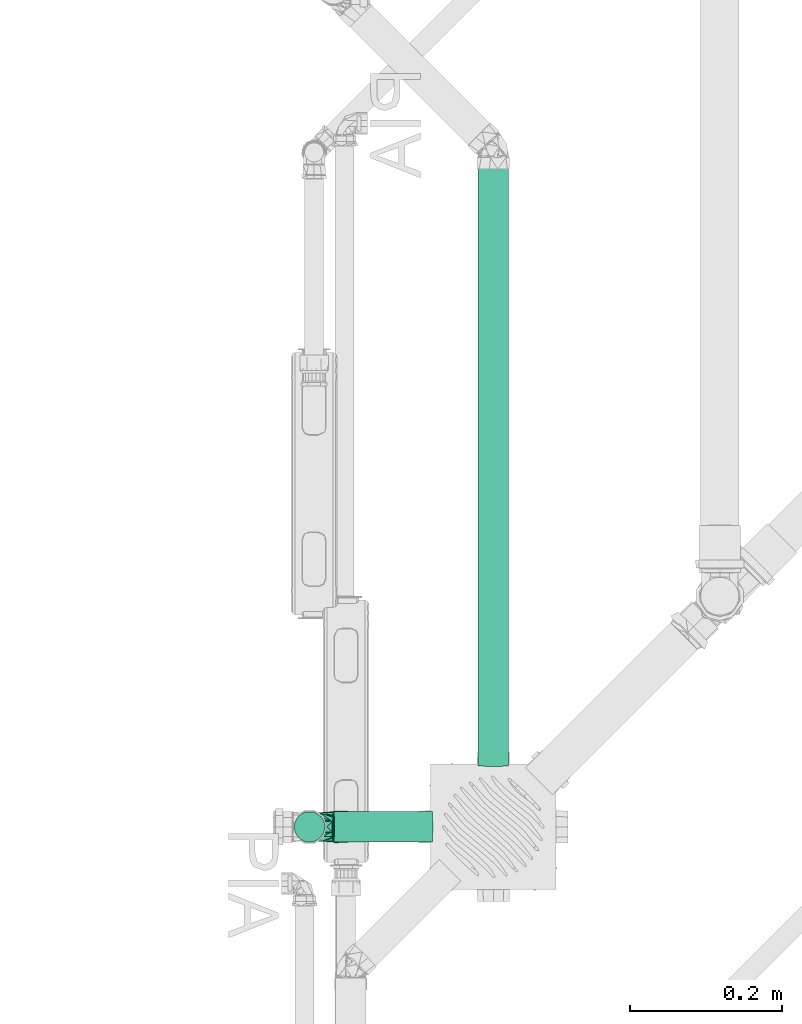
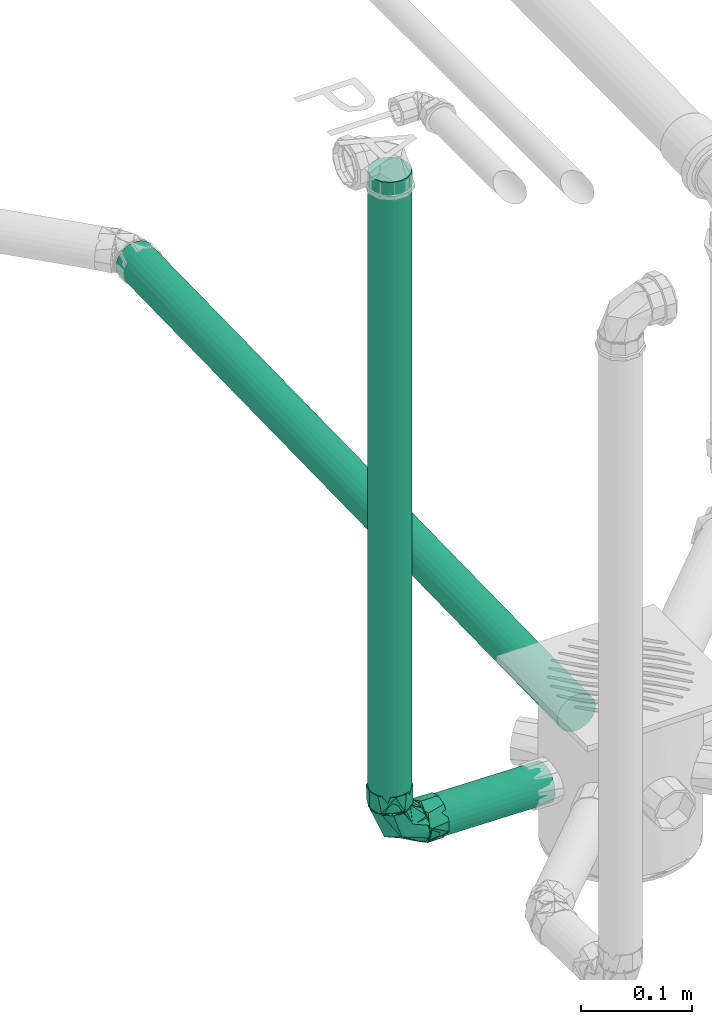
# One storey, part 197 of 589: 3 flow segments, 1 flow fitting.
"""IFC2X3 building model written with IfcOpenShell, lengths in millimetres."""

from ifc_helpers import new_model, entity, si_unit, converted_unit, derived_unit, direction, frame, frame_2d, origin, place, context, subcontext, project, spatial, circle, extrude, faceted_brep, source, transform, mapped, material, type_object, type_shapes, element, save


model = new_model("IFC2X3")

# Units and contexts
model_context = context("Model", 3, precision=0.01, world=origin(), true_north=direction((6.123031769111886e-17, 1.0)))
body_context = subcontext(model_context, "Body", "Model", "MODEL_VIEW")
ifc_project = project(units=[si_unit("LENGTHUNIT", "METRE", prefix="MILLI"), si_unit("AREAUNIT", "SQUARE_METRE"), si_unit("VOLUMEUNIT", "CUBIC_METRE"), converted_unit("PLANEANGLEUNIT", "DEGREE", entity("IfcRatioMeasure", 0.017453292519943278), si_unit("PLANEANGLEUNIT", "RADIAN"), dimensions=[0, 0, 0, 0, 0, 0, 0]), si_unit("MASSUNIT", "GRAM", prefix="KILO"), derived_unit("MASSDENSITYUNIT", [(si_unit("MASSUNIT", "GRAM", prefix="KILO"), 1), (si_unit("LENGTHUNIT", "METRE"), -3)]), derived_unit("IONCONCENTRATIONUNIT", [(si_unit("MASSUNIT", "GRAM", prefix="KILO"), 1), (si_unit("LENGTHUNIT", "METRE"), -3)]), derived_unit("MOMENTOFINERTIAUNIT", [(si_unit("LENGTHUNIT", "METRE"), 4)]), si_unit("TIMEUNIT", "SECOND"), si_unit("FREQUENCYUNIT", "HERTZ"), si_unit("THERMODYNAMICTEMPERATUREUNIT", "DEGREE_CELSIUS"), derived_unit("THERMALTRANSMITTANCEUNIT", [(si_unit("MASSUNIT", "GRAM", prefix="KILO"), 1), (si_unit("THERMODYNAMICTEMPERATUREUNIT", "KELVIN"), -1), (si_unit("TIMEUNIT", "SECOND"), -3)]), derived_unit("THERMALCONDUCTANCEUNIT", [(si_unit("MASSUNIT", "GRAM", prefix="KILO"), 1), (si_unit("THERMODYNAMICTEMPERATUREUNIT", "KELVIN"), -1), (si_unit("TIMEUNIT", "SECOND"), -3), (si_unit("LENGTHUNIT", "METRE"), 1)]), derived_unit("VOLUMETRICFLOWRATEUNIT", [(si_unit("LENGTHUNIT", "METRE"), 3), (si_unit("TIMEUNIT", "SECOND"), -1)]), derived_unit("MASSFLOWRATEUNIT", [(si_unit("MASSUNIT", "GRAM", prefix="KILO"), 1), (si_unit("TIMEUNIT", "SECOND"), -1)]), derived_unit("ROTATIONALFREQUENCYUNIT", [(si_unit("TIMEUNIT", "SECOND"), -1)]), si_unit("ELECTRICCURRENTUNIT", "AMPERE"), si_unit("ELECTRICVOLTAGEUNIT", "VOLT"), si_unit("POWERUNIT", "WATT"), si_unit("FORCEUNIT", "NEWTON", prefix="KILO"), si_unit("ILLUMINANCEUNIT", "LUX"), si_unit("LUMINOUSFLUXUNIT", "LUMEN"), si_unit("LUMINOUSINTENSITYUNIT", "CANDELA"), derived_unit("USERDEFINED", [(si_unit("MASSUNIT", "GRAM", prefix="KILO"), -1), (si_unit("LENGTHUNIT", "METRE"), -2), (si_unit("TIMEUNIT", "SECOND"), 3), (si_unit("LUMINOUSFLUXUNIT", "LUMEN"), 1)]), derived_unit("USERDEFINED", [(si_unit("MASSUNIT", "GRAM", prefix="KILO"), 1), (si_unit("TIMEUNIT", "SECOND"), -3), (si_unit("LENGTHUNIT", "METRE"), 3), (si_unit("ELECTRICCURRENTUNIT", "AMPERE"), -2)]), derived_unit("SOUNDPOWERUNIT", [(si_unit("MASSUNIT", "GRAM", prefix="KILO"), 1), (si_unit("TIMEUNIT", "SECOND"), -3), (si_unit("LENGTHUNIT", "METRE"), 2)]), derived_unit("SOUNDPRESSUREUNIT", [(si_unit("MASSUNIT", "GRAM", prefix="KILO"), 1), (si_unit("LENGTHUNIT", "METRE"), -1), (si_unit("TIMEUNIT", "SECOND"), -2)]), derived_unit("LINEARVELOCITYUNIT", [(si_unit("LENGTHUNIT", "METRE"), 1), (si_unit("TIMEUNIT", "SECOND"), -1)]), si_unit("PRESSUREUNIT", "PASCAL"), derived_unit("USERDEFINED", [(si_unit("MASSUNIT", "GRAM", prefix="KILO"), 1), (si_unit("LENGTHUNIT", "METRE"), -2), (si_unit("TIMEUNIT", "SECOND"), -2)]), derived_unit("LINEARFORCEUNIT", [(si_unit("MASSUNIT", "GRAM", prefix="KILO"), 1), (si_unit("TIMEUNIT", "SECOND"), -2)]), derived_unit("PLANARFORCEUNIT", [(si_unit("MASSUNIT", "GRAM", prefix="KILO"), 1), (si_unit("LENGTHUNIT", "METRE"), -1), (si_unit("TIMEUNIT", "SECOND"), -2)]), derived_unit("SPECIFICHEATCAPACITYUNIT", [(si_unit("THERMODYNAMICTEMPERATUREUNIT", "KELVIN"), -1), (si_unit("LENGTHUNIT", "METRE"), 2), (si_unit("TIMEUNIT", "SECOND"), -2)]), derived_unit("HEATINGVALUEUNIT", [(si_unit("LENGTHUNIT", "METRE"), 2), (si_unit("TIMEUNIT", "SECOND"), -2)]), derived_unit("VAPORPERMEABILITYUNIT", [(si_unit("LENGTHUNIT", "METRE"), -1), (si_unit("TIMEUNIT", "SECOND"), 1)]), derived_unit("DYNAMICVISCOSITYUNIT", [(si_unit("MASSUNIT", "GRAM", prefix="KILO"), 1), (si_unit("TIMEUNIT", "SECOND"), -1), (si_unit("LENGTHUNIT", "METRE"), -1)]), derived_unit("THERMALEXPANSIONCOEFFICIENTUNIT", [(si_unit("THERMODYNAMICTEMPERATUREUNIT", "KELVIN"), -1)]), derived_unit("MODULUSOFELASTICITYUNIT", [(si_unit("MASSUNIT", "GRAM", prefix="KILO"), 1), (si_unit("LENGTHUNIT", "METRE"), -1), (si_unit("TIMEUNIT", "SECOND"), -2)]), derived_unit("ISOTHERMALMOISTURECAPACITYUNIT", [(si_unit("LENGTHUNIT", "METRE"), 3), (si_unit("MASSUNIT", "GRAM", prefix="KILO"), -1)]), derived_unit("MOISTUREDIFFUSIVITYUNIT", [(si_unit("TIMEUNIT", "SECOND"), -1), (si_unit("LENGTHUNIT", "METRE"), 2)])], contexts=[model_context])

# Site, building, storey
site_placement = place(None, origin())
site = spatial("IfcSite", under=ifc_project, at=site_placement, Name="Default", CompositionType="ELEMENT")
building_placement = place(site_placement, origin())
building = spatial("IfcBuilding", under=site, at=building_placement, CompositionType="ELEMENT")
storey_placement = place(building_placement, frame((0.0, 0.0, 100.0)))
storey = spatial("IfcBuildingStorey", under=building, at=storey_placement, Name="TÉRREO", CompositionType="ELEMENT", Elevation=100.0)

# Flow segments
pipe_segment_type = type_object("IfcPipeSegmentType", Name="Tipos de tubos:PVC Esgoto Série Normal", PredefinedType="NOTDEFINED")
flow_segment_1_placement = place(storey_placement, origin())
element("IfcFlowSegment", 1, at=flow_segment_1_placement, inside=storey, type_object=pipe_segment_type, Name="Tipos de tubos:PVC Esgoto Série Normal", ObjectType="Tipos de tubos:PVC Esgoto Série Normal", context=body_context, shape_type="SweptSolid", body=[
    extrude(circle(Radius=20.0, at=frame_2d((0.0, -3.3832831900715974e-14), x_axis=(1.0, 0.0))), frame((7469.28895087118, -475.81133757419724, -254.33802423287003), z_axis=(-0.9998000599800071, 0.0, 0.019996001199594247), x_axis=(0.0, -1.0, 0.0)), (0.0, 0.0, 1.0), 129.24584104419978),
])
flow_segment_2_placement = place(storey_placement, origin())
element("IfcFlowSegment", 2, at=flow_segment_2_placement, inside=storey, type_object=pipe_segment_type, Name="Tipos de tubos:PVC Esgoto Série Normal", ObjectType="Tipos de tubos:PVC Esgoto Série Normal", context=body_context, shape_type="SweptSolid", body=[
    extrude(circle(Radius=20.0, at=frame_2d((0.0, -6.767919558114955e-14), x_axis=(1.0, 0.0))), frame((7307.869391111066, -475.8113375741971, -218.9036336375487)), (0.0, 0.0, 1.0), 697.1036336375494),
])
flow_segment_3_placement = place(storey_placement, origin())
element("IfcFlowSegment", 3, at=flow_segment_3_placement, inside=storey, type_object=pipe_segment_type, Name="Tipos de tubos:PVC Esgoto Série Normal", ObjectType="Tipos de tubos:PVC Esgoto Série Normal", context=body_context, shape_type="SweptSolid", body=[
    extrude(circle(Radius=20.0, at=frame_2d((0.0, -3.383283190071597e-14), x_axis=(1.0, 0.0))), frame((7549.188950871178, -395.9113375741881, -254.33802423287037), z_axis=(0.0, 0.999800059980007, 0.01999600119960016), x_axis=(1.0, 0.0, 0.0)), (0.0, 0.0, 1.0), 798.951614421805),
])

# Flow fitting
ifc_material = material(Name="PVC Branco")
pipe_fitting_type = type_object("IfcPipeFittingType", Name="PVC Esgoto_Curva 90° Curta:a. Série Normal", PredefinedType="NOTDEFINED", material=ifc_material)
shared_shape = source(origin(), body_context, "Body", "Brep", [
    faceted_brep([(17.961036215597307, 31.85321923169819, 10.0), (20.63999240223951, 31.79964010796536, 0.0), (17.961036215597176, 31.853219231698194, -10.0), (5.819337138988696, 32.09605321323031, -19.318516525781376), (-4.531354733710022, 32.30306705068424, -19.31851652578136), (-16.67305381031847, 32.545901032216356, -10.0), (-19.352009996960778, 32.59948015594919, 0.0), (-16.673053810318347, 32.54590103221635, 10.0), (-4.531354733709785, 32.303067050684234, 19.318516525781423), (5.819337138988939, 32.096053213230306, 19.318516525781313), (19.378093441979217, 29.02431814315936, 6.84041311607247), (15.905813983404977, 29.093763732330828, 12.855768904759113), (20.584003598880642, 29.000199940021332, 0.0), (7.427001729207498, 29.263339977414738, 18.793865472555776), (0.5880023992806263, 29.40011996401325, 20.0), (-12.265223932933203, 29.657184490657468, 15.320851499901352), (-18.202100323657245, 29.775922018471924, 6.840381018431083), (-19.407998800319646, 29.800039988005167, 0.0), (-6.251109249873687, 29.536902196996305, 18.79382458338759), (-18.202100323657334, 29.775922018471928, -6.840381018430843), (-14.729853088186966, 29.70647707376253, -12.855716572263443), (-6.25110924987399, 29.53690219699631, -18.79382458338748), (0.588002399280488, 29.40011996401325, -20.0), (13.441163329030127, 29.143056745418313, -15.32090639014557), (19.378093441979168, 29.02431814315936, -6.8404131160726), (7.427001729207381, 29.263339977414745, -18.79386547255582), (-11.35075352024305, -12.626805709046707, 0.0), (-29.405999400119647, -18.793848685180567, 6.8404131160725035), (-29.405999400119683, -19.396924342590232, 3.420206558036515), (-29.405999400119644, -20.0, 0.0), (-29.40599940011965, -15.320874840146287, 12.855768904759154), (-29.405999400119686, -17.057361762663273, 9.848091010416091), (-2.3339581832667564, 2.3811033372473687, 18.02101843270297), (-29.40599940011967, -6.840366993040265, 18.793865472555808), (-29.405999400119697, -11.080620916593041, 15.824817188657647), (-29.405999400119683, 0.0, 20.0), (-29.40599940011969, -3.420183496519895, 19.396932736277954), (-12.878045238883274, 13.138181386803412, 18.95216884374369), (12.851249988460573, 11.095996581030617, 0.0), (5.594072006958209, -5.707072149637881, 0.0), (-29.405999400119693, 6.840479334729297, 18.79382458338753), (-29.405999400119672, 3.4202396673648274, 19.396912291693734), (-29.405999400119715, 18.793860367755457, 6.840381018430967), (-29.405999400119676, 15.824828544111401, 11.080616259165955), (-29.405999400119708, 12.855796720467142, 15.320851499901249), (-22.405985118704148, 22.858585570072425, 0.0), (-29.40599940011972, 20.0, 0.0), (-29.405999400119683, 19.396930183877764, 3.4201905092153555), (-29.405999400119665, 9.848138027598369, 17.0573380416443), (-14.138248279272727, 14.423838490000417, -18.24666465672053), (-29.405999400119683, 0.0, -20.0), (-29.40599940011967, 3.4202396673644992, -19.396912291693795), (-29.405999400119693, 6.840479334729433, -18.79382458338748), (-29.405999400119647, -18.79384868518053, -6.840413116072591), (-29.40599940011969, -15.824789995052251, -11.080659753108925), (-29.405999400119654, -12.85573130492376, -15.32090639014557), (-2.333957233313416, 2.3811024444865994, -18.021017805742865), (-29.405999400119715, 18.793860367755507, -6.840381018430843), (-29.405999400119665, 11.080699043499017, -15.824770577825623), (-29.405999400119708, 15.320918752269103, -12.855716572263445), (-29.405999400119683, -19.396924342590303, -3.420206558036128), (-29.405999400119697, -9.848049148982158, -17.0573859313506), (-29.40599940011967, -6.840366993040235, -18.79386547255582), (-29.40599940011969, -3.420183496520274, -19.396932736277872), (-29.405999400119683, 19.39693018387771, -3.4201905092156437), (-29.405999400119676, 17.05738956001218, -9.848048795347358), (-30.20599940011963, -8.21241269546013, -16.988887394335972), (-30.20599940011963, -11.248444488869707, -14.659258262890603), (-30.20599940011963, -14.28447628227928, -12.329629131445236), (-30.20599940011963, -17.320508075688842, -10.0), (-30.20599940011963, -18.66025403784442, -5.0), (-30.20599940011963, -20.0, 0.0), (-30.20599940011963, -18.660254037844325, 5.0), (-30.20599940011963, -17.320508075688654, 10.0), (-30.20599940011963, -14.284476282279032, 12.329629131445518), (-30.20599940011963, -11.248444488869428, 14.659258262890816), (-30.20599940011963, -8.21241269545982, 16.988887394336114), (-30.20599940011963, -5.1763809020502, 19.318516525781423), (-30.20599940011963, 0.0, 19.31851652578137), (-30.20599940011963, 5.176380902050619, 19.318516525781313), (-30.20599940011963, 8.21241269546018, 16.98888739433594), (-30.20599940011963, 11.248444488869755, 14.65925826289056), (-30.205999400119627, 14.284476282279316, 12.329629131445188), (-30.20599940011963, 17.320508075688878, 10.0), (-30.20599940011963, 18.66025403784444, 5.0), (-30.20599940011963, 20.0, 0.0), (-30.20599940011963, 18.66025403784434, -5.0), (-30.20599940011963, 17.32050807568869, -10.0), (-30.20599940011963, 14.284476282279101, -12.329629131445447), (-30.20599940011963, 11.24844448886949, -14.659258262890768), (-30.20599940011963, 8.212412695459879, -16.988887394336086), (-30.20599940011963, 5.1763809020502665, -19.318516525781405), (-30.20599940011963, 0.0, -19.318516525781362), (-30.20599940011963, -5.176380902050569, -19.318516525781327)], [[[0, 1, 2, 3, 4, 5, 6, 7, 8, 9]], [[10, 1, 0]], [[11, 0, 9]], [[12, 1, 10]], [[11, 10, 0]], [[13, 11, 9]], [[9, 14, 13]], [[15, 8, 7]], [[7, 6, 16]], [[17, 16, 6]], [[14, 8, 18]], [[15, 18, 8]], [[16, 15, 7]], [[8, 14, 9]], [[19, 6, 5]], [[20, 5, 4]], [[17, 6, 19]], [[20, 19, 5]], [[21, 20, 4]], [[4, 22, 21]], [[23, 3, 2]], [[2, 1, 24]], [[12, 24, 1]], [[22, 3, 25]], [[23, 25, 3]], [[24, 23, 2]], [[3, 22, 4]], [[26, 27, 28, 29]], [[26, 30, 31, 27]], [[32, 33, 34, 30]], [[32, 35, 36, 33]], [[35, 32, 37]], [[11, 38, 10]], [[26, 32, 30]], [[32, 39, 38]], [[37, 40, 41, 35]], [[37, 42, 43, 44]], [[45, 46, 47, 42]], [[16, 45, 42]], [[37, 44, 48, 40]], [[39, 32, 26]], [[14, 18, 37]], [[32, 11, 13]], [[14, 37, 32]], [[32, 38, 11]], [[12, 10, 38]], [[45, 16, 17]], [[37, 15, 16]], [[37, 16, 42]], [[15, 37, 18]], [[32, 13, 14]], [[49, 50, 51, 52]], [[49, 21, 22]], [[26, 53, 54, 55]], [[56, 39, 26]], [[49, 57, 19]], [[49, 52, 58, 59]], [[56, 50, 49]], [[26, 29, 60, 53]], [[56, 55, 61, 62]], [[56, 62, 63, 50]], [[26, 55, 56]], [[45, 57, 64, 46]], [[45, 17, 19]], [[24, 12, 38]], [[23, 56, 25]], [[49, 20, 21]], [[49, 19, 20]], [[56, 49, 22]], [[56, 23, 38]], [[49, 59, 65, 57]], [[38, 39, 56]], [[24, 38, 23]], [[56, 22, 25]], [[19, 57, 45]], [[66, 67, 68, 69, 70, 71, 72, 73, 74, 75, 76, 77, 78, 79, 80, 81, 82, 83, 84, 85, 86, 87, 88, 89, 90, 91, 92, 93]], [[47, 46, 85]], [[33, 77, 76]], [[80, 40, 48]], [[48, 44, 81]], [[33, 76, 34]], [[81, 80, 48]], [[84, 83, 42]], [[82, 81, 44]], [[73, 72, 27]], [[85, 84, 47]], [[78, 41, 79]], [[77, 36, 78]], [[30, 75, 74, 73]], [[73, 27, 31, 30]], [[77, 33, 36]], [[71, 28, 72]], [[44, 43, 82]], [[36, 35, 78]], [[41, 40, 79]], [[34, 76, 75]], [[43, 42, 83]], [[75, 30, 34]], [[41, 78, 35]], [[84, 42, 47]], [[80, 79, 40]], [[43, 83, 82]], [[28, 71, 29]], [[28, 27, 72]], [[60, 29, 71]], [[52, 91, 90]], [[66, 62, 61]], [[61, 55, 67]], [[52, 90, 58]], [[67, 66, 61]], [[70, 69, 53]], [[68, 67, 55]], [[87, 86, 57]], [[71, 70, 60]], [[92, 63, 93]], [[91, 51, 92]], [[59, 89, 88, 87]], [[87, 57, 65, 59]], [[91, 52, 51]], [[85, 64, 86]], [[55, 54, 68]], [[51, 50, 92]], [[63, 62, 93]], [[90, 89, 58]], [[54, 53, 69]], [[89, 59, 58]], [[63, 92, 50]], [[70, 53, 60]], [[66, 93, 62]], [[54, 69, 68]], [[64, 85, 46]], [[64, 57, 86]]]),
    faceted_brep([(-32.20599940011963, -17.320508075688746, -10.0), (-32.20599940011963, -20.0, 0.0), (-32.20599940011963, -17.320508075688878, 10.0), (-32.20599940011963, -5.176380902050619, 19.318516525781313), (-32.20599940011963, 5.1763809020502, 19.318516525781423), (-32.20599940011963, 17.320508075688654, 10.0), (-32.20599940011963, 20.0, 0.0), (-32.20599940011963, 17.320508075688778, -10.0), (-32.20599940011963, 5.17638090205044, -19.31851652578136), (-32.20599940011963, -5.176380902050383, -19.318516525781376), (-29.40599940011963, -20.0, 0.0), (-29.40599940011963, -15.320920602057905, 12.855714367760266), (-29.40599940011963, 3.4728419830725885, 19.696176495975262), (-29.40599940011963, 15.320777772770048, 12.855884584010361), (-29.40599940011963, 20.0, 0.0), (-29.40599940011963, 15.320777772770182, -12.855884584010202), (-29.405999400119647, 5.923858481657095, -16.27601124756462), (-29.40599940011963, -3.473060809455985, -19.69613791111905), (-29.40599940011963, -15.320920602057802, -12.855714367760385), (12.85124998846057, 11.095996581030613, 0.0), (19.378093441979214, 29.024318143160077, 6.8404131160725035), (16.409628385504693, 29.083687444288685, 11.080659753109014), (13.441163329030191, 29.143056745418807, 15.320906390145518), (5.594072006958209, -5.707072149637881, 0.0), (-3.0189256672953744, 1.4413580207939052, 17.919138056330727), (-11.350753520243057, -12.626805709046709, 0.0), (-13.807968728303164, 12.593198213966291, 18.87014454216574), (-6.251109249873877, 29.53690219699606, 18.793824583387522), (-10.490481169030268, 29.621689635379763, 15.824770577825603), (-14.729853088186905, 29.70647707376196, 12.855716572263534), (-22.405985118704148, 22.858585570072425, 0.0), (-18.20210032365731, 29.775922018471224, 6.84038101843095), (-18.805049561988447, 29.787981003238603, 3.4201905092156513), (-19.407998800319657, 29.80003998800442, 0.0), (7.427001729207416, 29.26333997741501, 18.793865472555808), (4.007502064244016, 29.331729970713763, 19.396932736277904), (0.5880023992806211, 29.400119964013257, 20.0), (10.434082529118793, 29.203198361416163, 17.057385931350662), (20.58400359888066, 29.000199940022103, 0.0), (19.981048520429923, 29.012259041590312, 3.420206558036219), (-2.8315534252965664, 29.46851108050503, 19.396912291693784), (-16.465976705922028, 29.74119954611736, 9.84804879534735), (-12.878069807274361, 13.13814230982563, -18.95217245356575), (-12.265223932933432, 29.657184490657, -15.32085149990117), (-9.258166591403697, 29.59704334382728, -17.057338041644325), (-6.251109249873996, 29.53690219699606, -18.79382458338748), (-18.202100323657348, 29.775922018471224, -6.840381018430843), (-2.142006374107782, 2.6554433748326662, -18.049846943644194), (-18.80504956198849, 29.787981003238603, -3.4201905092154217), (-15.233662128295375, 29.716553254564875, -11.080616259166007), (19.378093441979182, 29.02431814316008, -6.840413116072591), (19.981048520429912, 29.012259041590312, -3.4202065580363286), (0.5880023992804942, 29.400119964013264, -20.0), (4.0075020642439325, 29.331729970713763, -19.396932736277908), (7.427001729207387, 29.26333997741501, -18.79386547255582), (11.666407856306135, 29.178551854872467, -15.824817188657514), (15.905813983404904, 29.09376373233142, -12.855768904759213), (17.64195371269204, 29.05904093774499, -9.8480910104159), (-2.831553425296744, 29.46851108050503, -19.39691229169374), (-4.571346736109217, 30.303466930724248, -19.31851652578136), (-7.60677150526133, 30.364175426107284, -16.988887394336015), (-10.64219627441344, 30.424883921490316, -14.659258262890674), (-13.677621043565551, 30.48559241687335, -12.329629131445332), (-16.713045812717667, 30.54630091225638, -10.0), (-18.052523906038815, 30.573090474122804, -5.0), (-19.392001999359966, 30.599880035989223, 0.0), (-18.052523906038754, 30.573090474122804, 5.0), (-16.71304581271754, 30.54630091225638, 10.0), (-13.67762104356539, 30.48559241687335, 12.329629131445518), (-10.642196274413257, 30.424883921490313, 14.659258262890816), (-7.606771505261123, 30.364175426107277, 16.988887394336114), (-4.571346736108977, 30.303466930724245, 19.318516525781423), (0.6039992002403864, 30.199960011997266, 19.31851652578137), (5.779345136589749, 30.096453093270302, 19.318516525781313), (8.814769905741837, 30.035744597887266, 16.98888739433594), (11.85019467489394, 29.975036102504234, 14.65925826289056), (14.885619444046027, 29.9143276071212, 12.329629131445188), (17.92104421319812, 29.853619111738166, 10.0), (19.26052230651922, 29.82682954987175, 5.0), (20.60000039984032, 29.80003998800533, 0.0), (19.260522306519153, 29.82682954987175, -5.0), (17.921044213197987, 29.85361911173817, -10.0), (14.885619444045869, 29.914327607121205, -12.329629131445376), (11.850194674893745, 29.975036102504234, -14.659258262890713), (8.814769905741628, 30.03574459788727, -16.988887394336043), (5.779345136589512, 30.096453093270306, -19.318516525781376), (0.6039992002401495, 30.199960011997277, -19.31851652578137)], [[[0, 1, 2, 3, 4, 5, 6, 7, 8, 9]], [[10, 11, 2]], [[10, 2, 1]], [[2, 11, 3]], [[11, 12, 3]], [[4, 12, 13]], [[5, 13, 14]], [[13, 5, 4]], [[5, 14, 6]], [[12, 4, 3]], [[14, 15, 7]], [[14, 7, 6]], [[7, 15, 8]], [[8, 15, 16, 17]], [[9, 17, 18]], [[0, 18, 10]], [[18, 0, 9]], [[0, 10, 1]], [[17, 9, 8]], [[19, 20, 21, 22]], [[23, 24, 25]], [[26, 13, 12]], [[25, 24, 11]], [[24, 23, 19]], [[26, 27, 28, 29]], [[14, 13, 30]], [[11, 10, 25]], [[30, 31, 32, 33]], [[31, 30, 13]], [[24, 34, 35, 36]], [[24, 26, 12]], [[24, 22, 37, 34]], [[11, 24, 12]], [[19, 38, 39, 20]], [[26, 36, 40, 27]], [[13, 29, 41, 31]], [[13, 26, 29]], [[36, 26, 24]], [[22, 24, 19]], [[15, 14, 30]], [[42, 43, 44, 45]], [[15, 30, 46]], [[16, 15, 42, 17]], [[47, 25, 18]], [[47, 18, 17]], [[42, 15, 46]], [[30, 33, 48, 46]], [[42, 46, 49, 43]], [[19, 50, 51, 38]], [[47, 52, 53, 54]], [[47, 54, 55, 56]], [[42, 52, 47]], [[19, 56, 57, 50]], [[25, 47, 23]], [[19, 23, 47]], [[25, 10, 18]], [[19, 47, 56]], [[17, 42, 47]], [[42, 45, 58, 52]], [[59, 60, 61, 62, 63, 64, 65, 66, 67, 68, 69, 70, 71, 72, 73, 74, 75, 76, 77, 78, 79, 80, 81, 82, 83, 84, 85, 86]], [[39, 38, 79]], [[21, 77, 76]], [[74, 34, 37]], [[37, 22, 75]], [[79, 78, 39]], [[75, 74, 37]], [[74, 73, 34]], [[76, 75, 22]], [[22, 21, 76]], [[78, 77, 20]], [[72, 35, 73]], [[27, 70, 28]], [[29, 69, 68, 67]], [[67, 31, 41, 29]], [[71, 27, 40]], [[65, 32, 66]], [[71, 40, 72]], [[40, 36, 72]], [[67, 66, 31]], [[28, 70, 69]], [[35, 34, 73]], [[69, 29, 28]], [[35, 72, 36]], [[78, 20, 39]], [[21, 20, 77]], [[27, 71, 70]], [[32, 65, 33]], [[32, 31, 66]], [[48, 33, 65]], [[54, 85, 84]], [[60, 45, 44]], [[44, 43, 61]], [[54, 84, 55]], [[61, 60, 44]], [[64, 63, 46]], [[62, 61, 43]], [[81, 80, 50]], [[65, 64, 48]], [[86, 58, 59]], [[85, 53, 86]], [[56, 83, 82, 81]], [[81, 50, 57, 56]], [[85, 54, 53]], [[79, 51, 80]], [[43, 49, 62]], [[53, 52, 86]], [[58, 45, 59]], [[55, 84, 83]], [[49, 46, 63]], [[83, 56, 55]], [[58, 86, 52]], [[64, 46, 48]], [[60, 59, 45]], [[49, 63, 62]], [[51, 79, 38]], [[51, 50, 80]]]),
    faceted_brep([(5.819337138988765, 32.09605321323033, 19.31851652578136), (17.961036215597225, 31.853219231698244, 10.0), (20.63999240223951, 31.799640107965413, 0.0), (17.96103621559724, 31.853219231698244, -10.0), (5.8193371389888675, 32.09605321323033, -19.318516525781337), (-4.531354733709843, 32.30306705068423, -19.31851652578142), (-16.67305381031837, 32.54590103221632, -10.0), (-19.352009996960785, 32.59948015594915, 0.0), (-16.673053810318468, 32.54590103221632, 10.0), (-4.531354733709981, 32.303067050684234, 19.318516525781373), (-4.571346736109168, 30.303466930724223, 19.318516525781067), (-16.713045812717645, 30.54630091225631, 10.0), (-19.39200199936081, 30.599880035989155, 0.0), (-16.713045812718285, 30.546300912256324, -10.0), (-4.571346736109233, 30.303466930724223, -19.318516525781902), (5.779345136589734, 30.096453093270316, -19.31851652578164), (17.92104421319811, 29.853619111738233, -10.0), (20.60000039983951, 29.800039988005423, 0.0), (17.92104421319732, 29.853619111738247, 10.0), (5.779345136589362, 30.096453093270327, 19.31851652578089), (16.960145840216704, 31.873237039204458, -13.688192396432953), (21.93973248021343, 31.77364530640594, 0.0), (4.344880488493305, 32.12554234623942, -20.97588948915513), (-20.651750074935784, 32.625474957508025, 0.0), (-15.668729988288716, 32.52581455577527, -13.692285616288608), (-5.661924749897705, 32.32567845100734, -17.33408755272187), (-15.668729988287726, 32.52581455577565, 13.69228561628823), (-3.0516373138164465, 32.27347270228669, 20.976817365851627), (16.960145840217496, 31.87323703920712, 13.688192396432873), (6.954254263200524, 32.073354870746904, 17.332504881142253), (-4.507824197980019, 50.30619608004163, -20.574220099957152), (-4.171426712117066, 50.29946813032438, -19.318516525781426), (6.1792651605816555, 50.09245429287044, -19.318516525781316), (-17.438733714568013, 50.56481427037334, -10.649999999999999), (6.515662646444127, 50.0857263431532, -20.57422009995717), (-16.31312578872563, 50.54230211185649, -10.0), (-18.99208197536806, 50.59588123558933, 0.0), (-20.29182205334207, 50.62187603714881, 0.0), (-16.313125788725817, 50.54230211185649, 10.0), (-17.438733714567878, 50.56481427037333, 10.650000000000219), (-4.1714267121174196, 50.29946813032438, 19.318516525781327), (-4.5078241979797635, 50.30619608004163, 20.574220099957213), (6.179265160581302, 50.09245429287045, 19.3185165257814), (6.515662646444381, 50.08572634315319, 20.574220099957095), (18.320964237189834, 49.84962031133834, 10.0), (19.446572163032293, 49.827108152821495, 10.649999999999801), (22.299660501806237, 49.770046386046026, 0.0), (20.99992042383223, 49.796041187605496, 0.0), (19.44657216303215, 49.8271081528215, -10.650000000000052), (18.320964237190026, 49.84962031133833, -10.0)], [[[0, 1, 2, 3, 4, 5, 6, 7, 8, 9]], [[10, 11, 12, 13, 14, 15, 16, 17, 18, 19]], [[16, 15, 20]], [[17, 16, 21]], [[21, 16, 20]], [[15, 22, 20]], [[23, 13, 12]], [[24, 14, 13]], [[15, 14, 22]], [[23, 24, 13]], [[25, 22, 14, 24]], [[11, 10, 26]], [[12, 11, 23]], [[23, 11, 26]], [[10, 27, 26]], [[21, 18, 17]], [[28, 19, 18]], [[10, 19, 27]], [[21, 28, 18]], [[29, 27, 19, 28]], [[30, 31, 32]], [[31, 30, 33]], [[32, 34, 30]], [[33, 35, 31]], [[33, 36, 35]], [[36, 33, 37]], [[38, 36, 37]], [[38, 37, 39]], [[39, 40, 38]], [[39, 41, 40]], [[40, 41, 42]], [[43, 42, 41]], [[43, 44, 42]], [[44, 43, 45]], [[46, 44, 45]], [[47, 44, 46]], [[48, 47, 46]], [[48, 49, 47]], [[49, 48, 34]], [[34, 32, 49]], [[46, 45, 21]], [[45, 28, 21]], [[28, 45, 43]], [[43, 27, 29, 28]], [[26, 41, 39]], [[23, 39, 37]], [[41, 26, 27]], [[26, 39, 23]], [[41, 27, 43]], [[37, 33, 23]], [[33, 24, 23]], [[24, 33, 30]], [[30, 22, 25, 24]], [[20, 34, 48]], [[21, 48, 46]], [[34, 20, 22]], [[20, 48, 21]], [[34, 22, 30]], [[3, 2, 47, 49]], [[4, 3, 49, 32]], [[32, 31, 5, 4]], [[6, 5, 31, 35]], [[7, 6, 35, 36]], [[8, 7, 36, 38]], [[9, 8, 38, 40]], [[40, 42, 0, 9]], [[1, 0, 42, 44]], [[2, 1, 44, 47]]]),
    faceted_brep([(-50.20599940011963, -5.512845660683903, -20.574220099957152), (-50.20599940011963, -5.176380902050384, -19.318516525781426), (-50.20599940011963, 5.176380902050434, -19.318516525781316), (-50.20599940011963, -18.446341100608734, -10.649999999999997), (-50.20599940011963, 5.512845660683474, -20.57422009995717), (-50.20599940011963, -17.320508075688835, -10.0), (-50.20599940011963, -20.0, 0.0), (-50.20599940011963, -21.300000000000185, 0.0), (-50.20599940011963, -17.320508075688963, 10.0), (-50.20599940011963, -18.4463411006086, 10.650000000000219), (-50.20599940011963, -5.176380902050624, 19.318516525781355), (-50.20599940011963, -5.512845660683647, 20.574220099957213), (-50.20599940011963, 5.176380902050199, 19.318516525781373), (-50.20599940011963, 5.512845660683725, 20.574220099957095), (-50.20599940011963, 17.320508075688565, 10.0), (-50.20599940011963, 18.44634110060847, 10.649999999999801), (-50.20599940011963, 21.299999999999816, 0.0), (-50.20599940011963, 20.0, 0.0), (-50.20599940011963, 18.446341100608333, -10.650000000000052), (-50.20599940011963, 17.320508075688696, -10.0), (-32.20599940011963, 21.299999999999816, 0.0), (-32.205999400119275, 16.319417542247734, 13.688192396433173), (-32.205999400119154, 3.701629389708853, 20.975889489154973), (-32.20599940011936, -16.315983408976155, 13.692285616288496), (-32.20599940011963, -21.300000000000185, 0.0), (-32.20599940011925, -6.307177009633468, 17.334087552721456), (-32.20599940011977, -16.31598340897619, -13.692285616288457), (-32.20599940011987, -3.6963675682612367, -20.976817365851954), (-32.2059994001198, 16.319417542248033, -13.688192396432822), (-32.20599940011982, 6.311524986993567, -17.332504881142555), (-32.20599940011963, -5.176380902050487, 19.31851652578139), (-32.20599940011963, 5.176380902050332, 19.318516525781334), (-32.20599940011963, 17.320508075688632, 10.0), (-32.20599940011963, 20.0, 0.0), (-32.20599940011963, 17.320508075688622, -10.0), (-32.20599940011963, 5.176380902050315, -19.318516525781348), (-32.20599940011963, -5.1763809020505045, -19.318516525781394), (-32.20599940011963, -17.3205080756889, -10.0), (-32.20599940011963, -20.0, 0.0), (-32.20599940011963, -17.32050807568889, 10.0), (-30.20599940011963, -5.176380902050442, 19.31851652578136), (-30.20599940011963, -17.320508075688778, 10.0), (-30.20599940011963, -20.0, 0.0), (-30.20599940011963, -17.320508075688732, -10.0), (-30.20599940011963, -5.176380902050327, -19.318516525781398), (-30.20599940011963, 5.176380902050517, -19.318516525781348), (-30.20599940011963, 17.320508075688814, -10.0), (-30.20599940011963, 20.0, 0.0), (-30.20599940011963, 17.320508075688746, 10.0), (-30.20599940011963, 5.176380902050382, 19.318516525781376)], [[[0, 1, 2]], [[1, 0, 3]], [[2, 4, 0]], [[3, 5, 1]], [[3, 6, 5]], [[6, 3, 7]], [[8, 6, 7]], [[8, 7, 9]], [[9, 10, 8]], [[9, 11, 10]], [[10, 11, 12]], [[13, 12, 11]], [[13, 14, 12]], [[14, 13, 15]], [[16, 14, 15]], [[17, 14, 16]], [[18, 17, 16]], [[18, 19, 17]], [[19, 18, 4]], [[4, 2, 19]], [[16, 15, 20]], [[15, 21, 20]], [[21, 15, 13]], [[21, 13, 22]], [[23, 11, 9]], [[24, 9, 7]], [[11, 23, 25, 22]], [[23, 9, 24]], [[11, 22, 13]], [[7, 3, 24]], [[3, 26, 24]], [[26, 3, 0]], [[26, 0, 27]], [[28, 4, 18]], [[20, 18, 16]], [[4, 28, 29, 27]], [[28, 18, 20]], [[4, 27, 0]], [[30, 31, 32, 33, 34, 35, 36, 37, 38, 39]], [[40, 41, 42, 43, 44, 45, 46, 47, 48, 49]], [[45, 28, 46]], [[47, 46, 20]], [[20, 46, 28]], [[27, 45, 44]], [[26, 44, 43]], [[24, 43, 42]], [[45, 27, 29, 28]], [[26, 27, 44]], [[24, 26, 43]], [[40, 23, 41]], [[42, 41, 24]], [[24, 41, 23]], [[22, 40, 49]], [[21, 49, 48]], [[20, 48, 47]], [[40, 22, 25, 23]], [[21, 22, 49]], [[20, 21, 48]], [[34, 33, 17, 19]], [[35, 34, 19, 2]], [[2, 1, 36, 35]], [[37, 36, 1, 5]], [[38, 37, 5, 6]], [[39, 38, 6, 8]], [[30, 39, 8, 10]], [[10, 12, 31, 30]], [[32, 31, 12, 14]], [[33, 32, 14, 17]]]),
])
type_shapes(pipe_fitting_type, [shared_shape])
flow_fitting_placement = place(storey_placement, frame((7307.869391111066, -475.8113375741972, -251.10963303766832), z_axis=(0.0, -1.0, 0.0), x_axis=(0.0, 0.0, -1.0)))
element("IfcFlowFitting", 4, at=flow_fitting_placement, inside=storey, type_object=pipe_fitting_type, material=ifc_material, Name="PVC Esgoto_Curva 90° Curta:a. Série Normal", ObjectType="PVC Esgoto_Curva 90° Curta:a. Série Normal", context=body_context, shape_type="MappedRepresentation", body=[
    mapped(shared_shape, transform((0.0, 0.0, 0.0), scale=1.0)),
])

save(model, "model.ifc")
